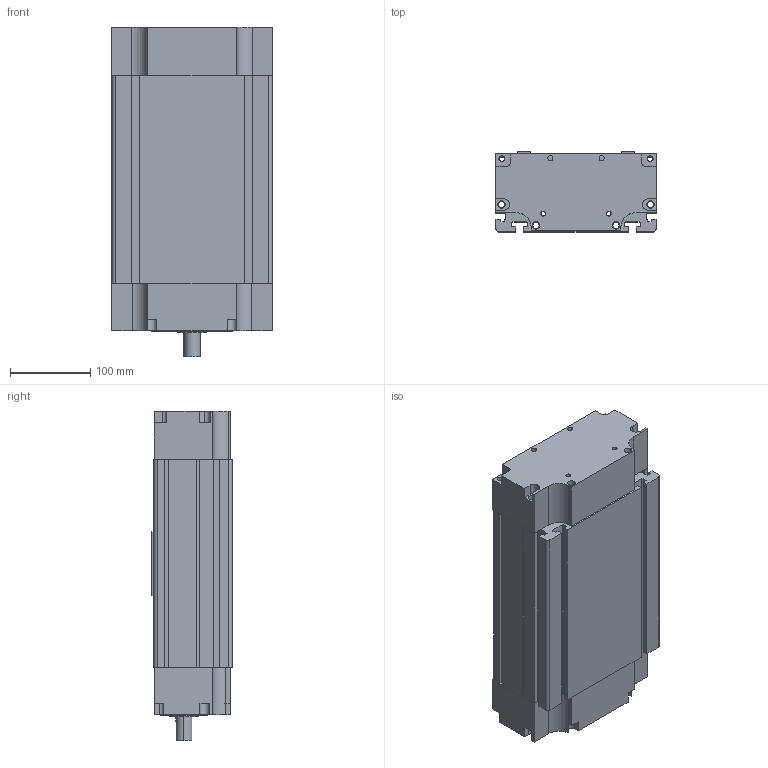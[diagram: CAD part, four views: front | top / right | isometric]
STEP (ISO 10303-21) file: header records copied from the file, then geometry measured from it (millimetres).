
FILE_DESCRIPTION (( 'STEP AP203' ), '1' );
FILE_NAME ('MSY200B-100-LL3205-P7.STEP', '2013-11-02T03:59:08', ( '微软用户' ), ( '微软中国' ), 'SwSTEP 2.0', 'SolidWorks 2010', '' );
FILE_SCHEMA (( 'CONFIG_CONTROL_DESIGN' ));
Length unit declared in the file: millimetre
Products named in the file (1): MSY200B-100-LL3205-P7
Bounding box: 200.2 x 99.96 x 411 mm (x, y, z)
Volume: 6721156.3 mm3; surface area: 402512 mm2
Topology: 1 solids, 1 shells, 326 faces, 855 edges, 552 vertices
Faces by surface type: plane 220, cylinder 98, cone 8
Entity records: 10045 total; most frequent: CARTESIAN_POINT 1756, DIRECTION 1702, ORIENTED_EDGE 1694, EDGE_CURVE 847, VECTOR 642, LINE 642, VERTEX_POINT 552, AXIS2_PLACEMENT_3D 530
